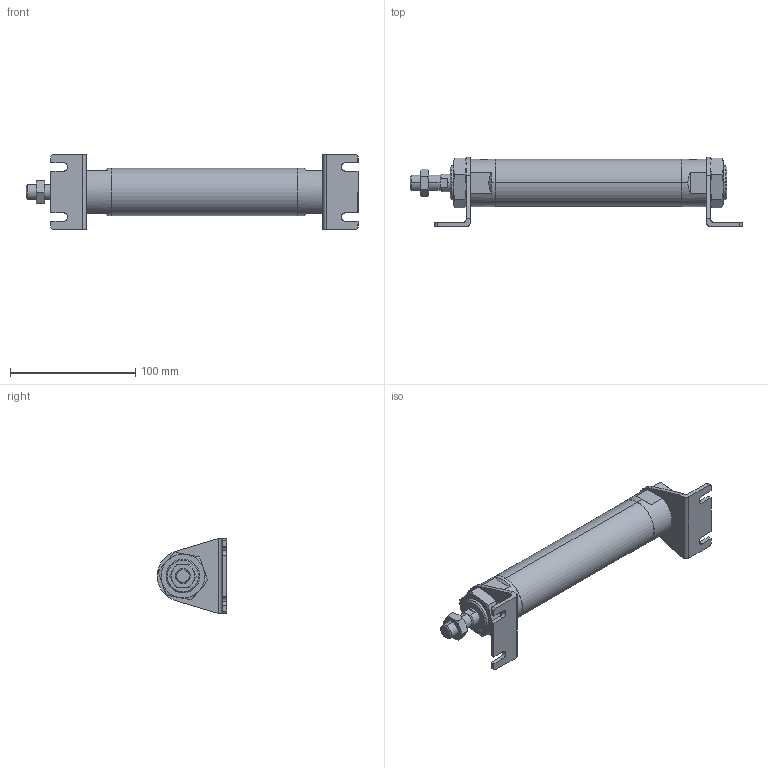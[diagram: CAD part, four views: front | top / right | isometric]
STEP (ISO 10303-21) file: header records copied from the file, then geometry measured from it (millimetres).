
FILE_DESCRIPTION (( 'STEP AP203' ), '1' );
FILE_NAME ('J#2-32-100-L.STEP', '2016-03-10T00:59:20', ( '' ), ( '' ), 'SwSTEP 2.0', 'SolidWorks 2014', '' );
FILE_SCHEMA (( 'CONFIG_CONTROL_DESIGN' ));
Length unit declared in the file: millimetre
Products named in the file (5): J#2-32-L; J#2-32-100-L; J#2-32-100
Assembly tree (6 placements, depth 2):
  J#2-32-100-L
    J#2-32-100
    (unnamed)
    (unnamed)  x2
    J#2-32-L  x2
Bounding box: 265.2 x 55.5 x 60 mm (x, y, z)
Volume: 262514.9 mm3; surface area: 52101.3 mm2
Topology: 6 solids, 6 shells, 170 faces, 404 edges, 249 vertices
Faces by surface type: plane 71, cylinder 48, torus 36, cone 15
Entity records: 4479 total; most frequent: CARTESIAN_POINT 1189, DIRECTION 578, ORIENTED_EDGE 558, EDGE_CURVE 279, AXIS2_PLACEMENT_3D 232, VERTEX_POINT 173, EDGE_LOOP 134, ADVANCED_FACE 121
